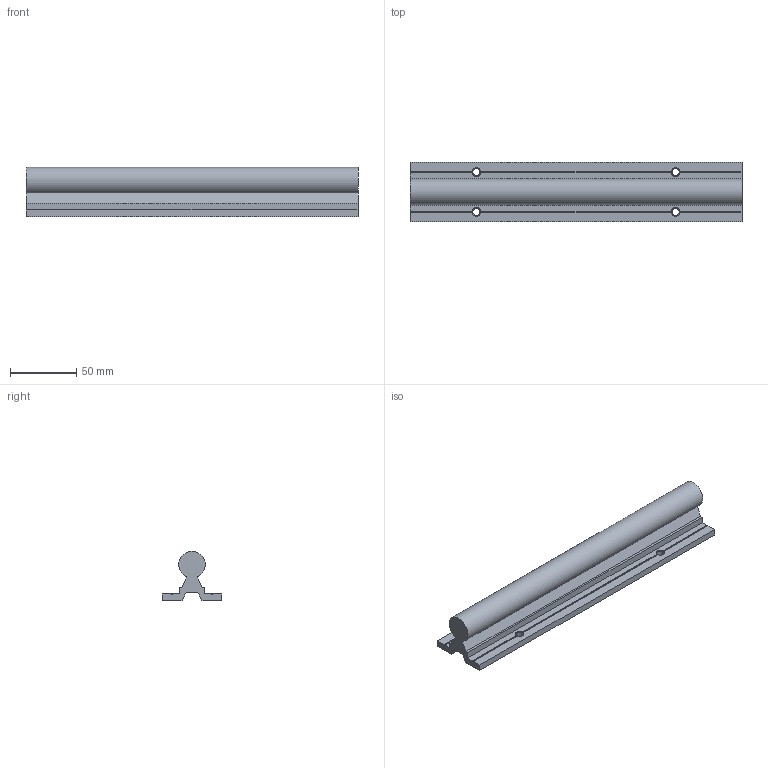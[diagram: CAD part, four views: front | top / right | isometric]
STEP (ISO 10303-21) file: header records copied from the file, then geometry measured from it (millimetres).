
FILE_DESCRIPTION(/* description */ (''),/* implementation_level */ '2;1');
FILE_NAME(/* name */ 'C:\Users\David\Desktop\stepFiles\Profilfuehrung\LFS20x250.stp',/* time_stamp */ '2018-06-24T15:21:50+02:00',/* author */ ('Buskamp'),/* organization */ (''),/* preprocessor_version */ 'ST-DEVELOPER v17',/* originating_system */ 'Autodesk Inventor 2019',/* authorisation */ '');
FILE_SCHEMA (('AUTOMOTIVE_DESIGN { 1 0 10303 214 3 1 1 }'));
Length unit declared in the file: millimetre
Products named in the file (1): Linearführung D20xvariabel
Bounding box: 250 x 45 x 37 mm (x, y, z)
Volume: 161444.9 mm3; surface area: 45446.1 mm2
Topology: 1 solids, 1 shells, 50 faces, 144 edges, 92 vertices
Faces by surface type: plane 37, cone 8, cylinder 5
Full cylindrical faces by diameter (mm): 5.5 x4
Entity records: 1669 total; most frequent: CARTESIAN_POINT 319, ORIENTED_EDGE 288, DIRECTION 268, EDGE_CURVE 144, VERTEX_POINT 92, LINE 90, VECTOR 90, AXIS2_PLACEMENT_3D 89
